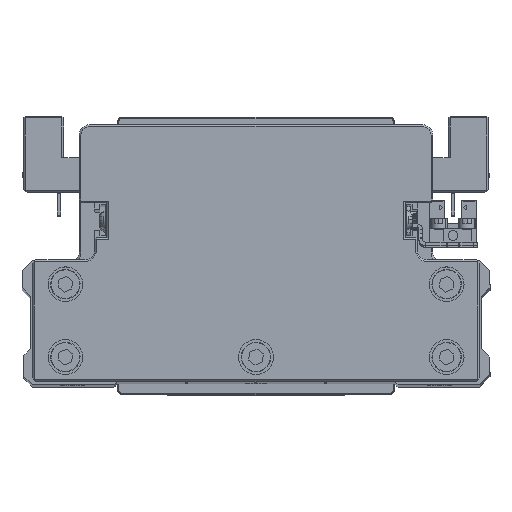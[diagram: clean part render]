
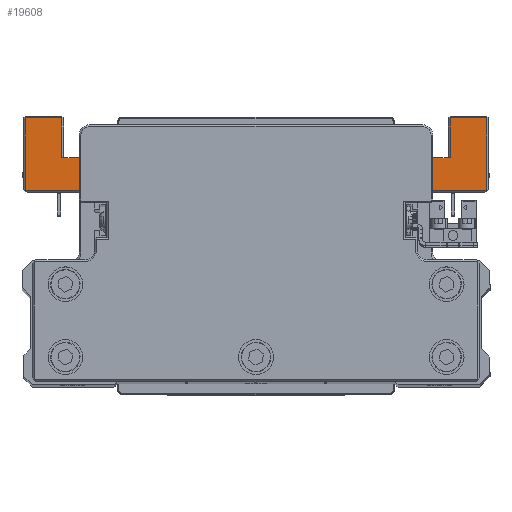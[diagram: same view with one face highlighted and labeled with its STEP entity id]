
A CAD part, top view. The second image highlights one B-rep face of the part: STEP entity #19608.
In plain terms, the highlighted planar face has unit normal (0, 0, 1) as drawn and (0, -1, 0) by its records, which use the part's own axes.
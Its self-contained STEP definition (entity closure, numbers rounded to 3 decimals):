
#6 = VECTOR ( 'NONE', #21982, 1000. ) ;
#122 = EDGE_CURVE ( 'NONE', #27596, #37080, #19017, .T. ) ;
#472 = CARTESIAN_POINT ( 'NONE',  ( 56., -45., -64. ) ) ;
#520 = EDGE_CURVE ( 'NONE', #38510, #30145, #21807, .T. ) ;
#852 = ORIENTED_EDGE ( 'NONE', *, *, #19965, .T. ) ;
#1267 = VERTEX_POINT ( 'NONE', #14485 ) ;
#1485 = EDGE_CURVE ( 'NONE', #10051, #8632, #30927, .T. ) ;
#2096 = CARTESIAN_POINT ( 'NONE',  ( -56., -45., -52.5 ) ) ;
#2305 = CARTESIAN_POINT ( 'NONE',  ( -40.066, -45., -41.5 ) ) ;
#2475 = DIRECTION ( 'NONE',  ( 0., 0., 1. ) ) ;
#2687 = LINE ( 'NONE', #11852, #12720 ) ;
#3288 = CIRCLE ( 'NONE', #25700, 1.5 ) ;
#3479 = CARTESIAN_POINT ( 'NONE',  ( -55.5, -45., -64. ) ) ;
#3734 = LINE ( 'NONE', #15947, #35702 ) ;
#3811 = DIRECTION ( 'NONE',  ( -1., 0., 0. ) ) ;
#4342 = CARTESIAN_POINT ( 'NONE',  ( 0., -45., 0. ) ) ;
#4495 = ORIENTED_EDGE ( 'NONE', *, *, #27801, .T. ) ;
#4585 = EDGE_LOOP ( 'NONE', ( #15464, #32216, #12977, #4495, #12325, #21658, #8527, #10627, #17286, #30514, #5804, #10940, #12933, #852, #21325, #31990, #20525, #31357 ) ) ;
#4907 = CARTESIAN_POINT ( 'NONE',  ( 40.066, -45., -43. ) ) ;
#5573 = VERTEX_POINT ( 'NONE', #19931 ) ;
#5804 = ORIENTED_EDGE ( 'NONE', *, *, #6874, .F. ) ;
#5859 = VERTEX_POINT ( 'NONE', #18691 ) ;
#6315 = VECTOR ( 'NONE', #35361, 1000. ) ;
#6331 = VECTOR ( 'NONE', #37234, 1000. ) ;
#6334 = VECTOR ( 'NONE', #2475, 1000. ) ;
#6564 = DIRECTION ( 'NONE',  ( 0., 0., 1. ) ) ;
#6874 = EDGE_CURVE ( 'NONE', #1267, #28184, #10890, .T. ) ;
#7000 = VECTOR ( 'NONE', #14299, 1000. ) ;
#7076 = EDGE_CURVE ( 'NONE', #5859, #1267, #2687, .T. ) ;
#7328 = EDGE_CURVE ( 'NONE', #25706, #9583, #37939, .T. ) ;
#7609 = DIRECTION ( 'NONE',  ( -1., 0., 0. ) ) ;
#7944 = DIRECTION ( 'NONE',  ( 0., 0., -1. ) ) ;
#8250 = VECTOR ( 'NONE', #17135, 1000. ) ;
#8527 = ORIENTED_EDGE ( 'NONE', *, *, #36658, .T. ) ;
#8632 = VERTEX_POINT ( 'NONE', #23325 ) ;
#9316 = CARTESIAN_POINT ( 'NONE',  ( -66., -45., -43. ) ) ;
#9321 = DIRECTION ( 'NONE',  ( -0.991, 0., 0.132 ) ) ;
#9583 = VERTEX_POINT ( 'NONE', #39015 ) ;
#9724 = CARTESIAN_POINT ( 'NONE',  ( 67., -45., -64. ) ) ;
#9830 = EDGE_CURVE ( 'NONE', #11831, #28184, #3734, .T. ) ;
#10051 = VERTEX_POINT ( 'NONE', #20754 ) ;
#10476 = CARTESIAN_POINT ( 'NONE',  ( -39.868, -45., -42.987 ) ) ;
#10627 = ORIENTED_EDGE ( 'NONE', *, *, #122, .F. ) ;
#10890 = LINE ( 'NONE', #23154, #6315 ) ;
#10940 = ORIENTED_EDGE ( 'NONE', *, *, #7076, .F. ) ;
#11265 = EDGE_CURVE ( 'NONE', #30145, #5573, #32358, .T. ) ;
#11761 = DIRECTION ( 'NONE',  ( 0., 1., 0. ) ) ;
#11831 = VERTEX_POINT ( 'NONE', #20971 ) ;
#11852 = CARTESIAN_POINT ( 'NONE',  ( 55.5, -45., -52.5 ) ) ;
#11935 = EDGE_CURVE ( 'NONE', #15826, #20337, #24596, .T. ) ;
#11987 = CARTESIAN_POINT ( 'NONE',  ( 66.5, -45., -64. ) ) ;
#12325 = ORIENTED_EDGE ( 'NONE', *, *, #33832, .T. ) ;
#12466 = VERTEX_POINT ( 'NONE', #472 ) ;
#12517 = EDGE_CURVE ( 'NONE', #20337, #25706, #22867, .T. ) ;
#12637 = VECTOR ( 'NONE', #7944, 1000. ) ;
#12720 = VECTOR ( 'NONE', #24105, 1000. ) ;
#12755 = LINE ( 'NONE', #25024, #6331 ) ;
#12933 = ORIENTED_EDGE ( 'NONE', *, *, #34973, .T. ) ;
#12977 = ORIENTED_EDGE ( 'NONE', *, *, #31757, .T. ) ;
#13165 = EDGE_CURVE ( 'NONE', #5573, #15826, #39111, .T. ) ;
#13680 = VERTEX_POINT ( 'NONE', #30354 ) ;
#14299 = DIRECTION ( 'NONE',  ( 0., 0., 1. ) ) ;
#14485 = CARTESIAN_POINT ( 'NONE',  ( 46., -45., -52.5 ) ) ;
#14498 = DIRECTION ( 'NONE',  ( 0., 1., 0. ) ) ;
#15046 = VECTOR ( 'NONE', #3811, 1000. ) ;
#15303 = VECTOR ( 'NONE', #22717, 1000. ) ;
#15464 = ORIENTED_EDGE ( 'NONE', *, *, #12517, .T. ) ;
#15677 = DIRECTION ( 'NONE',  ( 1., 0., 0. ) ) ;
#15826 = VERTEX_POINT ( 'NONE', #31387 ) ;
#15947 = CARTESIAN_POINT ( 'NONE',  ( 46., -45., -54. ) ) ;
#16569 = DIRECTION ( 'NONE',  ( 0., -1., 0. ) ) ;
#17135 = DIRECTION ( 'NONE',  ( -1., 0., 0. ) ) ;
#17286 = ORIENTED_EDGE ( 'NONE', *, *, #39293, .F. ) ;
#17698 = LINE ( 'NONE', #29918, #6334 ) ;
#18691 = CARTESIAN_POINT ( 'NONE',  ( 56., -45., -52.5 ) ) ;
#19017 = LINE ( 'NONE', #31249, #15046 ) ;
#19582 = FACE_OUTER_BOUND ( 'NONE', #4585, .T. ) ;
#19608 = ADVANCED_FACE ( 'NONE', ( #19582 ), #31784, .T. ) ;
#19931 = CARTESIAN_POINT ( 'NONE',  ( 40.066, -45., -43. ) ) ;
#19965 = EDGE_CURVE ( 'NONE', #12466, #38510, #37174, .T. ) ;
#20018 = CARTESIAN_POINT ( 'NONE',  ( -46., -45., -52.5 ) ) ;
#20337 = VERTEX_POINT ( 'NONE', #27500 ) ;
#20525 = ORIENTED_EDGE ( 'NONE', *, *, #13165, .T. ) ;
#20754 = CARTESIAN_POINT ( 'NONE',  ( -66.5, -45., -64. ) ) ;
#20971 = CARTESIAN_POINT ( 'NONE',  ( -46., -45., -54. ) ) ;
#21221 = VECTOR ( 'NONE', #21559, 1000. ) ;
#21325 = ORIENTED_EDGE ( 'NONE', *, *, #520, .T. ) ;
#21547 = CARTESIAN_POINT ( 'NONE',  ( 66.5, -45., -43. ) ) ;
#21559 = DIRECTION ( 'NONE',  ( -1., 0., 0. ) ) ;
#21647 = CARTESIAN_POINT ( 'NONE',  ( -40.066, -45., -43. ) ) ;
#21658 = ORIENTED_EDGE ( 'NONE', *, *, #1485, .T. ) ;
#21807 = LINE ( 'NONE', #34018, #37485 ) ;
#21982 = DIRECTION ( 'NONE',  ( 1., 0., 0. ) ) ;
#22680 = CARTESIAN_POINT ( 'NONE',  ( -36.217, -45., -42.5 ) ) ;
#22717 = DIRECTION ( 'NONE',  ( -0.991, 0., -0.132 ) ) ;
#22867 = LINE ( 'NONE', #35069, #34586 ) ;
#23154 = CARTESIAN_POINT ( 'NONE',  ( 46., -45., -52.5 ) ) ;
#23203 = LINE ( 'NONE', #35405, #12637 ) ;
#23325 = CARTESIAN_POINT ( 'NONE',  ( -56., -45., -64. ) ) ;
#23836 = CARTESIAN_POINT ( 'NONE',  ( -56., -45., -52.5 ) ) ;
#24007 = DIRECTION ( 'NONE',  ( 0., 0., -1. ) ) ;
#24105 = DIRECTION ( 'NONE',  ( -1., 0., 0. ) ) ;
#24596 = LINE ( 'NONE', #36789, #35176 ) ;
#25024 = CARTESIAN_POINT ( 'NONE',  ( 56., -45., -64.5 ) ) ;
#25531 = VERTEX_POINT ( 'NONE', #21647 ) ;
#25700 = AXIS2_PLACEMENT_3D ( 'NONE', #2305, #14498, #26740 ) ;
#25706 = VERTEX_POINT ( 'NONE', #22680 ) ;
#26740 = DIRECTION ( 'NONE',  ( 0., 0., -1. ) ) ;
#26961 = AXIS2_PLACEMENT_3D ( 'NONE', #39246, #11761, #24007 ) ;
#27500 = CARTESIAN_POINT ( 'NONE',  ( 36.217, -45., -42.5 ) ) ;
#27596 = VERTEX_POINT ( 'NONE', #20018 ) ;
#27801 = EDGE_CURVE ( 'NONE', #25531, #13680, #36784, .T. ) ;
#28174 = DIRECTION ( 'NONE',  ( 1., 0., 0. ) ) ;
#28184 = VERTEX_POINT ( 'NONE', #32627 ) ;
#28798 = DIRECTION ( 'NONE',  ( 0., 0., -1. ) ) ;
#29536 = LINE ( 'NONE', #2096, #7000 ) ;
#29918 = CARTESIAN_POINT ( 'NONE',  ( -46., -45., -52.5 ) ) ;
#30145 = VERTEX_POINT ( 'NONE', #21547 ) ;
#30354 = CARTESIAN_POINT ( 'NONE',  ( -66.5, -45., -43. ) ) ;
#30514 = ORIENTED_EDGE ( 'NONE', *, *, #9830, .T. ) ;
#30688 = AXIS2_PLACEMENT_3D ( 'NONE', #4342, #16569, #28798 ) ;
#30927 = LINE ( 'NONE', #3479, #37536 ) ;
#31249 = CARTESIAN_POINT ( 'NONE',  ( -55.5, -45., -52.5 ) ) ;
#31357 = ORIENTED_EDGE ( 'NONE', *, *, #11935, .T. ) ;
#31387 = CARTESIAN_POINT ( 'NONE',  ( 39.868, -45., -42.987 ) ) ;
#31757 = EDGE_CURVE ( 'NONE', #9583, #25531, #3288, .T. ) ;
#31784 = PLANE ( 'NONE',  #30688 ) ;
#31990 = ORIENTED_EDGE ( 'NONE', *, *, #11265, .T. ) ;
#32216 = ORIENTED_EDGE ( 'NONE', *, *, #7328, .T. ) ;
#32358 = LINE ( 'NONE', #4907, #8250 ) ;
#32627 = CARTESIAN_POINT ( 'NONE',  ( 46., -45., -54. ) ) ;
#33832 = EDGE_CURVE ( 'NONE', #13680, #10051, #23203, .T. ) ;
#34018 = CARTESIAN_POINT ( 'NONE',  ( 66.5, -45., -43.5 ) ) ;
#34586 = VECTOR ( 'NONE', #7609, 1000. ) ;
#34973 = EDGE_CURVE ( 'NONE', #5859, #12466, #12755, .T. ) ;
#35069 = CARTESIAN_POINT ( 'NONE',  ( -77.786, -45., -42.5 ) ) ;
#35176 = VECTOR ( 'NONE', #9321, 1000. ) ;
#35361 = DIRECTION ( 'NONE',  ( 0., 0., -1. ) ) ;
#35405 = CARTESIAN_POINT ( 'NONE',  ( -66.5, -45., -64.5 ) ) ;
#35702 = VECTOR ( 'NONE', #28174, 1000. ) ;
#36658 = EDGE_CURVE ( 'NONE', #8632, #37080, #29536, .T. ) ;
#36784 = LINE ( 'NONE', #9316, #21221 ) ;
#36789 = CARTESIAN_POINT ( 'NONE',  ( 25.802, -45., -41.111 ) ) ;
#37080 = VERTEX_POINT ( 'NONE', #23836 ) ;
#37174 = LINE ( 'NONE', #9724, #6 ) ;
#37234 = DIRECTION ( 'NONE',  ( 0., 0., -1. ) ) ;
#37485 = VECTOR ( 'NONE', #6564, 1000. ) ;
#37536 = VECTOR ( 'NONE', #15677, 1000. ) ;
#37939 = LINE ( 'NONE', #10476, #15303 ) ;
#38510 = VERTEX_POINT ( 'NONE', #11987 ) ;
#39015 = CARTESIAN_POINT ( 'NONE',  ( -39.868, -45., -42.987 ) ) ;
#39111 = CIRCLE ( 'NONE', #26961, 1.5 ) ;
#39246 = CARTESIAN_POINT ( 'NONE',  ( 40.066, -45., -41.5 ) ) ;
#39293 = EDGE_CURVE ( 'NONE', #11831, #27596, #17698, .T. ) ;
